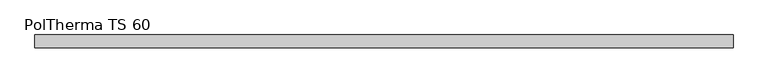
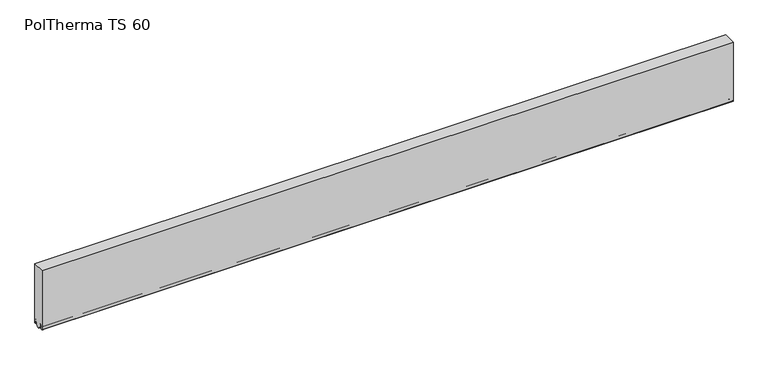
"""IFC4 building model written with IfcOpenShell, lengths in millimetres: plate geometry, Europanels_Poltherma TS_Hz : PolTherma TS 60."""

from ifc_helpers import new_model, si_unit, point, frame, frame_2d, origin, place, context, project, spatial, polyline, circle_curve, trimmed, segment, composite_curve, outline, extrude, source, transform, mapped, element, save


def poltherma_ts_60_64a75bf9(model_context):
    return source(origin(), model_context, "Body", "SweptSolid", [
        extrude(outline(composite_curve([segment(polyline([(-30.0, 300.0), (30.0, 300.0), (30.0, 3.8814338)]), True, "CONTINUOUS"), segment(trimmed(circle_curve(frame_2d((27.6314591, 3.8814338)), 2.3685409), [point((30.0, 3.8814338))], [point((25.2663769, 3.7534806))], False, "CARTESIAN"), True, "CONTINUOUS"), segment(polyline([(25.2663769, 3.7534806), (24.3282622, 21.093556)]), True, "CONTINUOUS"), segment(trimmed(circle_curve(frame_2d((21.0497285, 20.9161842)), 3.2833282), [point((24.3282622, 21.093556))], [point((17.7718427, 21.1051522))], True, "CARTESIAN"), True, "CONTINUOUS"), segment(polyline([(17.7718427, 21.1051522), (16.7366349, 3.1481762)]), True, "CONTINUOUS"), segment(trimmed(circle_curve(frame_2d((14.9895357, 3.2488953)), 1.75), [point((16.7366349, 3.1481762))], [point((14.9895357, 1.4988953))], False, "CARTESIAN"), True, "CONTINUOUS"), segment(polyline([(14.9895357, 1.4988953), (12.5267156, 1.4988953)]), True, "CONTINUOUS"), segment(trimmed(circle_curve(frame_2d((2.7, 3.3524487)), 10.0), [point((12.5267156, 1.4988953))], [point((-7.1267156, 1.4988953))], False, "CARTESIAN"), True, "CONTINUOUS"), segment(polyline([(-7.1267156, 1.4988953), (-10.5507777, 1.4988953)]), True, "CONTINUOUS"), segment(trimmed(circle_curve(frame_2d((-10.5507777, 3.2988953)), 1.8), [point((-10.5507777, 1.4988953))], [point((-12.3477941, 3.1952985))], False, "CARTESIAN"), True, "CONTINUOUS"), segment(polyline([(-12.3477941, 3.1952985), (-13.3842966, 21.1747334)]), True, "CONTINUOUS"), segment(trimmed(circle_curve(frame_2d((-16.3793238, 21.0020721)), 3.0), [point((-13.3842966, 21.1747334))], [point((-16.3793238, 24.0020721))], True, "CARTESIAN"), True, "CONTINUOUS"), segment(polyline([(-16.3793238, 24.0020721), (-19.3209015, 24.0020721)]), True, "CONTINUOUS"), segment(trimmed(circle_curve(frame_2d((-19.3209015, 21.0020721)), 3.0), [point((-19.3209015, 24.0020721))], [point((-22.3165207, 21.1641379))], True, "CARTESIAN"), True, "CONTINUOUS"), segment(polyline([(-22.3165207, 21.1641379), (-23.2780726, 3.3908514)]), True, "CONTINUOUS"), segment(trimmed(circle_curve(frame_2d((-25.2751521, 3.4988953)), 2.0), [point((-23.2780726, 3.3908514))], [point((-25.2751521, 1.4988953))], False, "CARTESIAN"), True, "CONTINUOUS"), segment(polyline([(-25.2751521, 1.4988953), (-28.0, 1.4988953)]), True, "CONTINUOUS"), segment(trimmed(circle_curve(frame_2d((-28.0, 3.4988953)), 2.0), [point((-28.0, 1.4988953))], [point((-30.0, 3.4988953))], False, "CARTESIAN"), True, "CONTINUOUS"), segment(polyline([(-30.0, 3.4988953), (-30.0, 300.0)]), True, "CONTINUOUS")], self_intersect=False)), frame((-1650.0, 0.0, 0.0), z_axis=(1.0, 0.0, 0.0), x_axis=(0.0, 1.0, 0.0)), (0.0, 0.0, 1.0), 3300.0),
    ])


if __name__ == "__main__":
    model = new_model("IFC4")
    model_context = context("Model", 3, world=origin())
    ifc_project = project(units=[si_unit("LENGTHUNIT", "METRE", prefix="MILLI")], contexts=[model_context])
    site = spatial("IfcSite", under=ifc_project)
    building = spatial("IfcBuilding", under=site)
    placement = place(None, origin())
    poltherma_ts_60_shape = poltherma_ts_60_64a75bf9(model_context)
    element("IfcPlate", 1, ObjectType="Europanels_Poltherma TS_Hz : PolTherma TS 60", at=placement, inside=building, context=model_context, shape_type="MappedRepresentation", body=[
        mapped(poltherma_ts_60_shape, transform((0.0, 0.0, 0.0), x_axis=(1.0, 0.0, 0.0), y_axis=(0.0, 1.0, 0.0), z_axis=(0.0, 0.0, 1.0))),
    ])
    save(model, "model.ifc")
